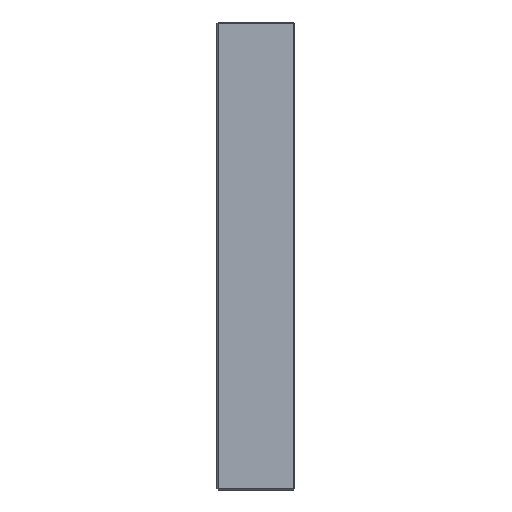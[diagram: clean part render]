
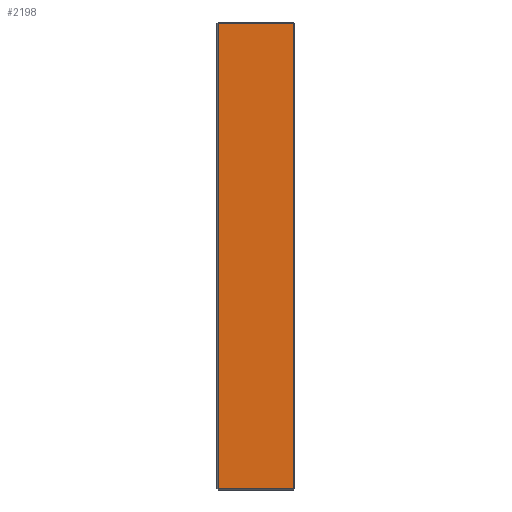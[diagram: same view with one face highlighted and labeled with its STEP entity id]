
A CAD part, left-side view. The second image highlights one B-rep face of the part: STEP entity #2198.
In plain terms, the highlighted planar face has unit normal (-1, 0, 0).
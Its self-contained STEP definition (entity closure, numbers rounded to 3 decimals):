
#31 = CARTESIAN_POINT ( 'NONE',  ( -198., 1., -197. ) ) ;
#34 = VERTEX_POINT ( 'NONE', #927 ) ;
#58 = CARTESIAN_POINT ( 'NONE',  ( -198., 66., -197. ) ) ;
#105 = FACE_OUTER_BOUND ( 'NONE', #2480, .T. ) ;
#117 = EDGE_CURVE ( 'NONE', #34, #1705, #1512, .T. ) ;
#181 = VECTOR ( 'NONE', #765, 1000. ) ;
#202 = DIRECTION ( 'NONE',  ( 0., 0., -1. ) ) ;
#249 = DIRECTION ( 'NONE',  ( 0., -1., 0. ) ) ;
#313 = ORIENTED_EDGE ( 'NONE', *, *, #117, .T. ) ;
#360 = PLANE ( 'NONE',  #734 ) ;
#367 = VECTOR ( 'NONE', #1318, 1000. ) ;
#531 = VERTEX_POINT ( 'NONE', #31 ) ;
#734 = AXIS2_PLACEMENT_3D ( 'NONE', #1625, #1193, #1219 ) ;
#739 = LINE ( 'NONE', #1151, #181 ) ;
#765 = DIRECTION ( 'NONE',  ( 0., 0., 1. ) ) ;
#854 = EDGE_CURVE ( 'NONE', #531, #34, #739, .T. ) ;
#927 = CARTESIAN_POINT ( 'NONE',  ( -198., 1., 197. ) ) ;
#1030 = VECTOR ( 'NONE', #202, 1000. ) ;
#1151 = CARTESIAN_POINT ( 'NONE',  ( -198., 1., 198. ) ) ;
#1193 = DIRECTION ( 'NONE',  ( 1., 0., 0. ) ) ;
#1211 = CARTESIAN_POINT ( 'NONE',  ( -198., 66., 197. ) ) ;
#1219 = DIRECTION ( 'NONE',  ( 0., 0., -1. ) ) ;
#1318 = DIRECTION ( 'NONE',  ( 0., 1., 0. ) ) ;
#1512 = LINE ( 'NONE', #1211, #367 ) ;
#1625 = CARTESIAN_POINT ( 'NONE',  ( -198., 66., 198. ) ) ;
#1655 = CARTESIAN_POINT ( 'NONE',  ( -198., 65., 197. ) ) ;
#1664 = EDGE_CURVE ( 'NONE', #1705, #1952, #2631, .T. ) ;
#1705 = VERTEX_POINT ( 'NONE', #1655 ) ;
#1790 = ORIENTED_EDGE ( 'NONE', *, *, #2368, .T. ) ;
#1866 = VECTOR ( 'NONE', #249, 1000. ) ;
#1952 = VERTEX_POINT ( 'NONE', #2575 ) ;
#2128 = ORIENTED_EDGE ( 'NONE', *, *, #854, .T. ) ;
#2198 = ADVANCED_FACE ( 'NONE', ( #105 ), #360, .F. ) ;
#2368 = EDGE_CURVE ( 'NONE', #1952, #531, #2385, .T. ) ;
#2385 = LINE ( 'NONE', #58, #1866 ) ;
#2413 = CARTESIAN_POINT ( 'NONE',  ( -198., 65., 198. ) ) ;
#2444 = ORIENTED_EDGE ( 'NONE', *, *, #1664, .T. ) ;
#2480 = EDGE_LOOP ( 'NONE', ( #313, #2444, #1790, #2128 ) ) ;
#2575 = CARTESIAN_POINT ( 'NONE',  ( -198., 65., -197. ) ) ;
#2631 = LINE ( 'NONE', #2413, #1030 ) ;
